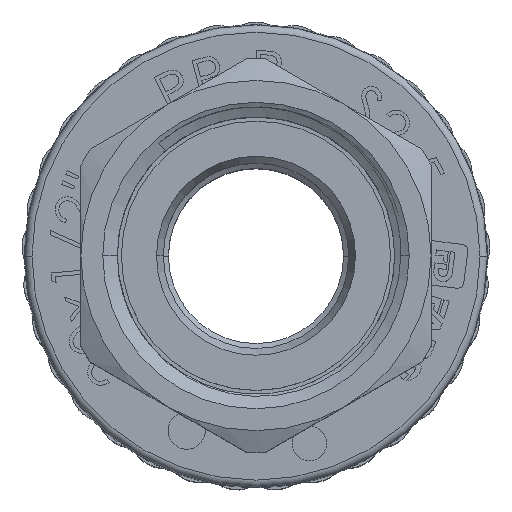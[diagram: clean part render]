
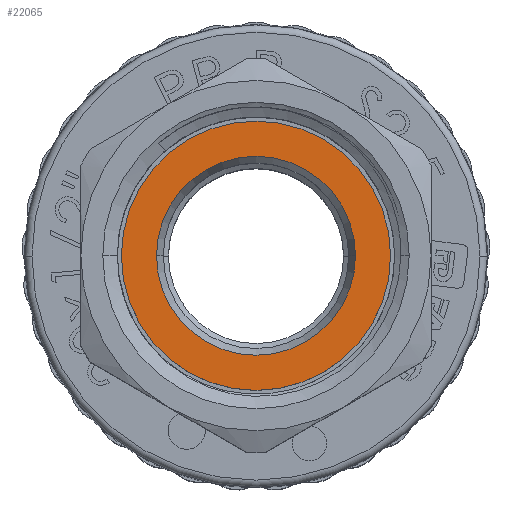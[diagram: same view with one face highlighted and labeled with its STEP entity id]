
A CAD part, top view. The second image highlights one B-rep face of the part: STEP entity #22065.
In plain terms, the highlighted planar face has unit normal (0, 0, 1) as drawn and (0, 0, -1) by its records, which use the part's own axes.
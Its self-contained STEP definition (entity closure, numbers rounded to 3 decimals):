
#457 = FACE_OUTER_BOUND ( 'NONE', #766, .T. ) ;
#766 = EDGE_LOOP ( 'NONE', ( #18664, #14343 ) ) ;
#1296 = DIRECTION ( 'NONE',  ( 0., 0., 1. ) ) ;
#1394 = EDGE_CURVE ( 'NONE', #8370, #21719, #1476, .T. ) ;
#1476 = CIRCLE ( 'NONE', #4536, 6.816 ) ;
#1513 = DIRECTION ( 'NONE',  ( 0., 0., 1. ) ) ;
#3218 = DIRECTION ( 'NONE',  ( 1., 0., 0. ) ) ;
#3774 = DIRECTION ( 'NONE',  ( 0., 0., 1. ) ) ;
#4309 = CIRCLE ( 'NONE', #17618, 9.225 ) ;
#4536 = AXIS2_PLACEMENT_3D ( 'NONE', #16036, #10563, #19754 ) ;
#5962 = AXIS2_PLACEMENT_3D ( 'NONE', #16379, #3774, #18224 ) ;
#6139 = VERTEX_POINT ( 'NONE', #18309 ) ;
#8370 = VERTEX_POINT ( 'NONE', #10784 ) ;
#8673 = CARTESIAN_POINT ( 'NONE',  ( 0., 6.35, -29.8 ) ) ;
#9821 = EDGE_CURVE ( 'NONE', #21719, #8370, #11058, .T. ) ;
#10121 = EDGE_CURVE ( 'NONE', #6139, #17840, #4309, .T. ) ;
#10182 = ORIENTED_EDGE ( 'NONE', *, *, #9821, .T. ) ;
#10267 = DIRECTION ( 'NONE',  ( 0., 0., 1. ) ) ;
#10459 = DIRECTION ( 'NONE',  ( 1., 0., 0. ) ) ;
#10563 = DIRECTION ( 'NONE',  ( 0., 0., 1. ) ) ;
#10784 = CARTESIAN_POINT ( 'NONE',  ( -6.816, 0., -29.8 ) ) ;
#11058 = CIRCLE ( 'NONE', #5962, 6.816 ) ;
#11198 = ORIENTED_EDGE ( 'NONE', *, *, #1394, .T. ) ;
#11408 = AXIS2_PLACEMENT_3D ( 'NONE', #19130, #1296, #19292 ) ;
#14343 = ORIENTED_EDGE ( 'NONE', *, *, #10121, .F. ) ;
#16036 = CARTESIAN_POINT ( 'NONE',  ( 0., 0., -29.8 ) ) ;
#16379 = CARTESIAN_POINT ( 'NONE',  ( 0., 0., -29.8 ) ) ;
#17618 = AXIS2_PLACEMENT_3D ( 'NONE', #19305, #10267, #3218 ) ;
#17840 = VERTEX_POINT ( 'NONE', #19712 ) ;
#18224 = DIRECTION ( 'NONE',  ( 1., 0., 0. ) ) ;
#18309 = CARTESIAN_POINT ( 'NONE',  ( -9.225, 0., -29.8 ) ) ;
#18664 = ORIENTED_EDGE ( 'NONE', *, *, #21639, .F. ) ;
#19060 = EDGE_LOOP ( 'NONE', ( #11198, #10182 ) ) ;
#19130 = CARTESIAN_POINT ( 'NONE',  ( 0., 0., -29.8 ) ) ;
#19209 = CARTESIAN_POINT ( 'NONE',  ( 6.816, 0., -29.8 ) ) ;
#19292 = DIRECTION ( 'NONE',  ( 1., 0., 0. ) ) ;
#19305 = CARTESIAN_POINT ( 'NONE',  ( 0., 0., -29.8 ) ) ;
#19712 = CARTESIAN_POINT ( 'NONE',  ( 9.225, 0., -29.8 ) ) ;
#19754 = DIRECTION ( 'NONE',  ( 1., 0., 0. ) ) ;
#20323 = CIRCLE ( 'NONE', #11408, 9.225 ) ;
#21135 = PLANE ( 'NONE',  #21697 ) ;
#21639 = EDGE_CURVE ( 'NONE', #17840, #6139, #20323, .T. ) ;
#21697 = AXIS2_PLACEMENT_3D ( 'NONE', #8673, #1513, #10459 ) ;
#21719 = VERTEX_POINT ( 'NONE', #19209 ) ;
#22065 = ADVANCED_FACE ( 'NONE', ( #22533, #457 ), #21135, .F. ) ;
#22533 = FACE_BOUND ( 'NONE', #19060, .T. ) ;
